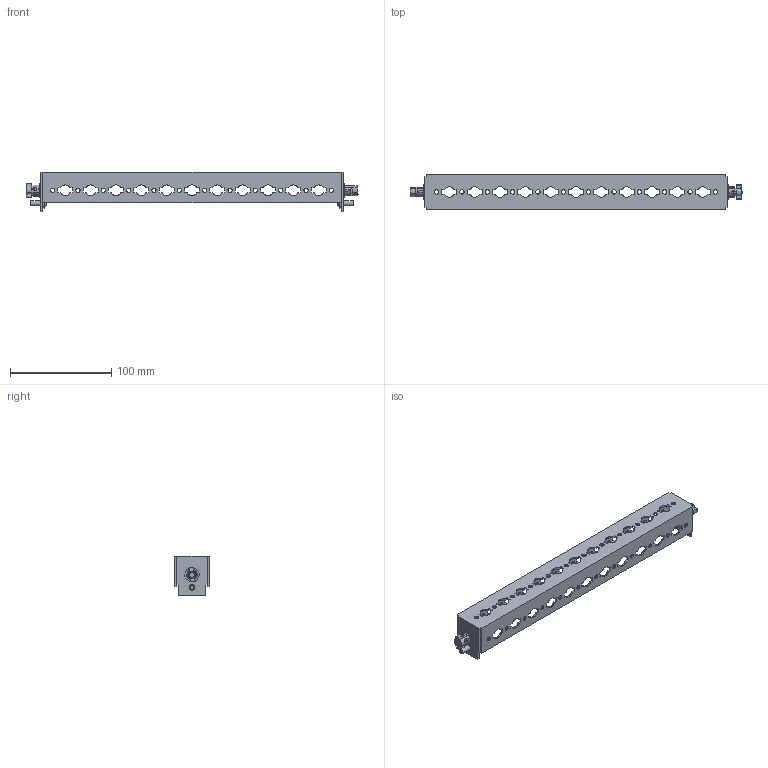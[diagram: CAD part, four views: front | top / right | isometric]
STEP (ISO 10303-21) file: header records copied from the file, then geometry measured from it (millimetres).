
FILE_DESCRIPTION(('Open CASCADE Model'),'2;1');
FILE_NAME('Open CASCADE Shape Model','2025-02-21T11:47:49',('Author'),( 'Open CASCADE'),'Open CASCADE STEP processor 7.8','Open CASCADE 7.8' ,'Unknown');
FILE_SCHEMA(('AUTOMOTIVE_DESIGN { 1 0 10303 214 1 1 1 1 }'));
Length unit declared in the file: millimetre
Products named in the file (5): Compound1; Solid1; Solid2; Solid3; Solid4
Assembly tree (7 placements, depth 2):
  Compound1
    Solid1
    Solid2  x2
    Solid3  x2
    Solid4  x2
Bounding box: 327.6 x 34 x 38.5 mm (x, y, z)
Volume: 40886.8 mm3; surface area: 58834.2 mm2
Topology: 9 solids, 9 shells, 1006 faces, 2824 edges, 1834 vertices
Faces by surface type: cylinder 452, plane 414, bspline 80, torus 32, cone 24, sphere 4
Full cylindrical faces by diameter (mm): 4.2 x36, 5 x4, 5.5 x2, 6 x2, 6.5 x4, 8.3 x2, 9.5 x2, 12 x2
Entity records: 29397 total; most frequent: CARTESIAN_POINT 7510, ORIENTED_EDGE 4642, DIRECTION 4566, EDGE_CURVE 2321, AXIS2_PLACEMENT_3D 1669, VERTEX_POINT 1526, LINE 1228, VECTOR 1228
